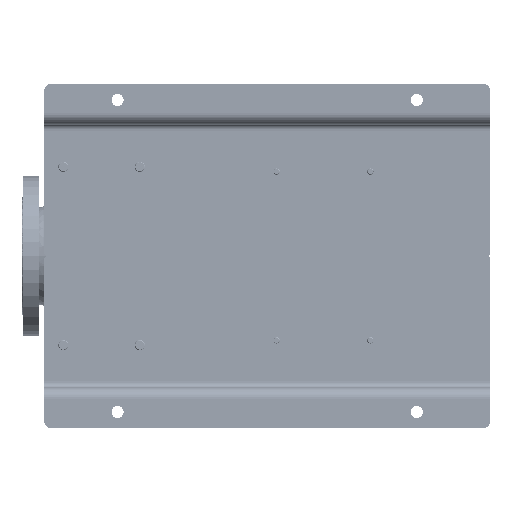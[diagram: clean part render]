
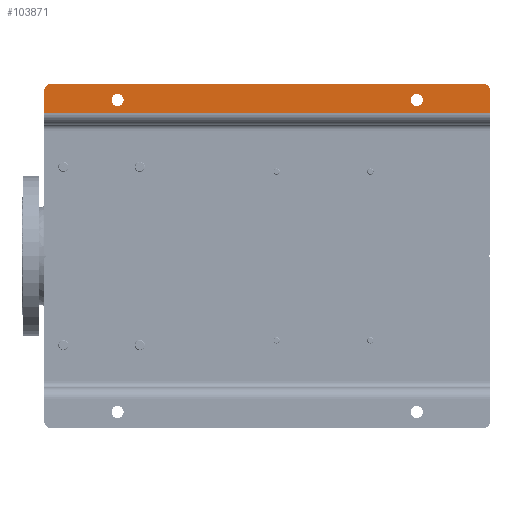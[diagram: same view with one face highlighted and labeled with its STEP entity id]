
A CAD part, front view. The second image highlights one B-rep face of the part: STEP entity #103871.
In plain terms, the highlighted planar face has unit normal (0, -1, 0).
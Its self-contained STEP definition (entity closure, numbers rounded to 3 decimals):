
#7759 = EDGE_CURVE ( 'NONE', #64002, #107892, #35862, .T. ) ;
#15118 = CARTESIAN_POINT ( 'NONE',  ( 540., 0., -700. ) ) ;
#17494 = CARTESIAN_POINT ( 'NONE',  ( 530., 0., -700. ) ) ;
#19378 = VECTOR ( 'NONE', #24123, 1000. ) ;
#21064 = DIRECTION ( 'NONE',  ( 0., 0., -1. ) ) ;
#24023 = EDGE_LOOP ( 'NONE', ( #115045, #110062, #56982, #163153, #109836, #108473 ) ) ;
#24123 = DIRECTION ( 'NONE',  ( 1., 0., 0. ) ) ;
#27551 = DIRECTION ( 'NONE',  ( 0., -1., 0. ) ) ;
#28305 = VERTEX_POINT ( 'NONE', #77808 ) ;
#29197 = DIRECTION ( 'NONE',  ( 0., 0., -1. ) ) ;
#32395 = CIRCLE ( 'NONE', #58287, 9.5 ) ;
#35862 = LINE ( 'NONE', #143333, #92435 ) ;
#40417 = DIRECTION ( 'NONE',  ( 0., 0., -1. ) ) ;
#41346 = CARTESIAN_POINT ( 'NONE',  ( 515., 0., -575.5 ) ) ;
#42564 = DIRECTION ( 'NONE',  ( 0., 0., -1. ) ) ;
#46557 = FACE_OUTER_BOUND ( 'NONE', #24023, .T. ) ;
#48340 = EDGE_CURVE ( 'NONE', #150818, #89269, #32395, .T. ) ;
#50372 = CIRCLE ( 'NONE', #76088, 10. ) ;
#56982 = ORIENTED_EDGE ( 'NONE', *, *, #165938, .T. ) ;
#58287 = AXIS2_PLACEMENT_3D ( 'NONE', #109851, #160763, #107585 ) ;
#60420 = EDGE_LOOP ( 'NONE', ( #190191, #226109 ) ) ;
#64002 = VERTEX_POINT ( 'NONE', #152172 ) ;
#64529 = DIRECTION ( 'NONE',  ( 0., 0., -1. ) ) ;
#65634 = CARTESIAN_POINT ( 'NONE',  ( 530., 0., -690. ) ) ;
#65682 = VERTEX_POINT ( 'NONE', #169256 ) ;
#76088 = AXIS2_PLACEMENT_3D ( 'NONE', #101232, #154355, #193594 ) ;
#76990 = CARTESIAN_POINT ( 'NONE',  ( 515., 0., -115. ) ) ;
#77808 = CARTESIAN_POINT ( 'NONE',  ( 540., 0., -690. ) ) ;
#78457 = LINE ( 'NONE', #162897, #19378 ) ;
#84659 = PLANE ( 'NONE',  #141851 ) ;
#89269 = VERTEX_POINT ( 'NONE', #102990 ) ;
#89481 = EDGE_CURVE ( 'NONE', #64002, #187174, #126033, .T. ) ;
#91695 = EDGE_CURVE ( 'NONE', #65682, #227224, #136259, .T. ) ;
#92435 = VECTOR ( 'NONE', #195318, 1000. ) ;
#101232 = CARTESIAN_POINT ( 'NONE',  ( 530., 0., -10. ) ) ;
#102990 = CARTESIAN_POINT ( 'NONE',  ( 515., 0., -594.5 ) ) ;
#103871 = ADVANCED_FACE ( 'NONE', ( #170264, #203736, #46557 ), #84659, .T. ) ;
#107585 = DIRECTION ( 'NONE',  ( 0., 0., -1. ) ) ;
#107892 = VERTEX_POINT ( 'NONE', #146870 ) ;
#108473 = ORIENTED_EDGE ( 'NONE', *, *, #146879, .T. ) ;
#109836 = ORIENTED_EDGE ( 'NONE', *, *, #139556, .T. ) ;
#109851 = CARTESIAN_POINT ( 'NONE',  ( 515., 0., -585. ) ) ;
#110062 = ORIENTED_EDGE ( 'NONE', *, *, #89481, .T. ) ;
#114223 = CARTESIAN_POINT ( 'NONE',  ( 515., 0., -585. ) ) ;
#115045 = ORIENTED_EDGE ( 'NONE', *, *, #7759, .F. ) ;
#118051 = EDGE_CURVE ( 'NONE', #205635, #28305, #200161, .T. ) ;
#119831 = CARTESIAN_POINT ( 'NONE',  ( 495., 0., -700. ) ) ;
#122883 = CARTESIAN_POINT ( 'NONE',  ( 515., 0., -105.5 ) ) ;
#123159 = VECTOR ( 'NONE', #157298, 1000. ) ;
#126033 = LINE ( 'NONE', #196509, #175022 ) ;
#136259 = CIRCLE ( 'NONE', #187875, 9.5 ) ;
#137528 = AXIS2_PLACEMENT_3D ( 'NONE', #76990, #147511, #181024 ) ;
#138801 = LINE ( 'NONE', #15118, #123159 ) ;
#139556 = EDGE_CURVE ( 'NONE', #28305, #221726, #138801, .T. ) ;
#141851 = AXIS2_PLACEMENT_3D ( 'NONE', #169097, #189858, #29197 ) ;
#143333 = CARTESIAN_POINT ( 'NONE',  ( 477., 0., 0. ) ) ;
#143623 = CARTESIAN_POINT ( 'NONE',  ( 515., 0., -115. ) ) ;
#146870 = CARTESIAN_POINT ( 'NONE',  ( 530., 0., 0. ) ) ;
#146879 = EDGE_CURVE ( 'NONE', #221726, #107892, #50372, .T. ) ;
#147511 = DIRECTION ( 'NONE',  ( 0., 1., 0. ) ) ;
#150818 = VERTEX_POINT ( 'NONE', #41346 ) ;
#152172 = CARTESIAN_POINT ( 'NONE',  ( 495., 0., 0. ) ) ;
#154355 = DIRECTION ( 'NONE',  ( 0., -1., 0. ) ) ;
#155462 = CARTESIAN_POINT ( 'NONE',  ( 540., 0., -10. ) ) ;
#155690 = ORIENTED_EDGE ( 'NONE', *, *, #165653, .T. ) ;
#157298 = DIRECTION ( 'NONE',  ( 0., 0., 1. ) ) ;
#160763 = DIRECTION ( 'NONE',  ( 0., 1., 0. ) ) ;
#161831 = ORIENTED_EDGE ( 'NONE', *, *, #91695, .T. ) ;
#162897 = CARTESIAN_POINT ( 'NONE',  ( 477., 0., -700. ) ) ;
#163153 = ORIENTED_EDGE ( 'NONE', *, *, #118051, .T. ) ;
#163442 = CIRCLE ( 'NONE', #137528, 9.5 ) ;
#165499 = DIRECTION ( 'NONE',  ( 0., 1., 0. ) ) ;
#165653 = EDGE_CURVE ( 'NONE', #227224, #65682, #163442, .T. ) ;
#165938 = EDGE_CURVE ( 'NONE', #187174, #205635, #78457, .T. ) ;
#169097 = CARTESIAN_POINT ( 'NONE',  ( 477., 0., -700. ) ) ;
#169256 = CARTESIAN_POINT ( 'NONE',  ( 515., 0., -124.5 ) ) ;
#170264 = FACE_BOUND ( 'NONE', #226648, .T. ) ;
#170663 = AXIS2_PLACEMENT_3D ( 'NONE', #65634, #27551, #64529 ) ;
#175022 = VECTOR ( 'NONE', #40417, 1000. ) ;
#181024 = DIRECTION ( 'NONE',  ( 0., 0., -1. ) ) ;
#184725 = DIRECTION ( 'NONE',  ( 0., 1., 0. ) ) ;
#187174 = VERTEX_POINT ( 'NONE', #119831 ) ;
#187875 = AXIS2_PLACEMENT_3D ( 'NONE', #143623, #165499, #21064 ) ;
#189858 = DIRECTION ( 'NONE',  ( 0., -1., 0. ) ) ;
#190191 = ORIENTED_EDGE ( 'NONE', *, *, #48340, .T. ) ;
#193594 = DIRECTION ( 'NONE',  ( 0., 0., -1. ) ) ;
#195318 = DIRECTION ( 'NONE',  ( 1., 0., 0. ) ) ;
#196509 = CARTESIAN_POINT ( 'NONE',  ( 495., 0., -700. ) ) ;
#199621 = EDGE_CURVE ( 'NONE', #89269, #150818, #225524, .T. ) ;
#200161 = CIRCLE ( 'NONE', #170663, 10. ) ;
#203736 = FACE_BOUND ( 'NONE', #60420, .T. ) ;
#205635 = VERTEX_POINT ( 'NONE', #17494 ) ;
#218094 = AXIS2_PLACEMENT_3D ( 'NONE', #114223, #184725, #42564 ) ;
#221726 = VERTEX_POINT ( 'NONE', #155462 ) ;
#225524 = CIRCLE ( 'NONE', #218094, 9.5 ) ;
#226109 = ORIENTED_EDGE ( 'NONE', *, *, #199621, .T. ) ;
#226648 = EDGE_LOOP ( 'NONE', ( #155690, #161831 ) ) ;
#227224 = VERTEX_POINT ( 'NONE', #122883 ) ;
